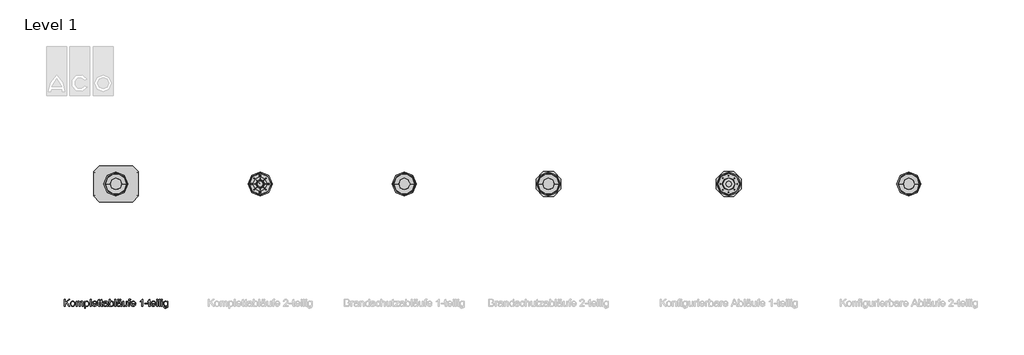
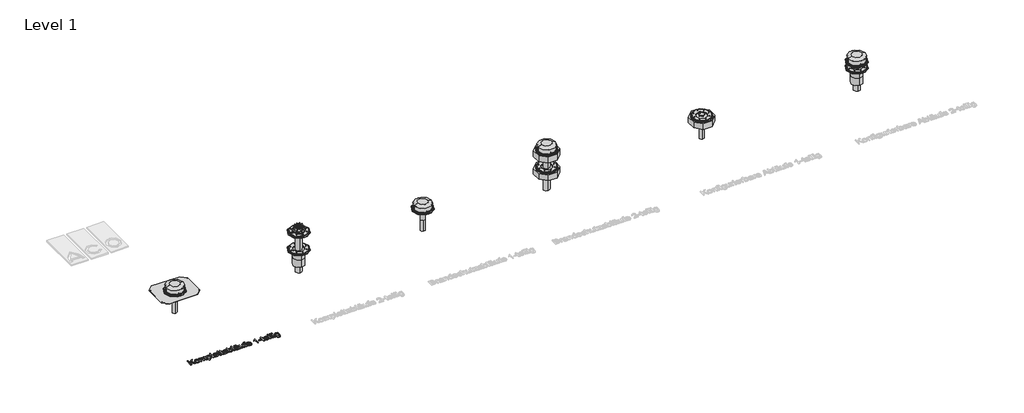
# One storey, part 1 of 4: 39 sanitary terminals, 1 proxy, 1 unitary equipment element.
"""IFC4 building model written with IfcOpenShell, lengths in millimetres."""

from ifc_helpers import new_model, si_unit, origin, origin_with_axes, place, context, project, spatial, polyline, outline, extrude, transform, mapped, element, save
from components import dn100_cellular_glass_insulation_01523197, dn70_uninsulated_26a85f5e, dn70_e7ab0a21, pf_gen_spin_complete_gully_double_body_aco_dn70_uninsulated_9e07d89d, std_nested_c40f8a32, std_nested_96657f73, std_nested_b7057b15, std_nested_38cea44b, std_nested_563bcbb4, std_nested_f304a034, std_nested_937152f7, std_nested_26a2ab0b, std_nested_b6c5579d, std_nested_9b388c5e, std_nested_0cbd71f9, std_nested_315dc5ef, std_nested_48636e09, std_nested_016ffaeb, std_nested_41c56b70

model = new_model("IFC4")

# Units and contexts
model_context = context("Model", 3, world=origin())
ifc_project = project(units=[si_unit("LENGTHUNIT", "METRE", prefix="MILLI")], contexts=[model_context])

# Site, building, storey
site = spatial("IfcSite", under=ifc_project)
building = spatial("IfcBuilding", under=site)
storey = spatial("IfcBuildingStorey", under=building, Name="Level 1", Elevation=0.0)

# Proxy
placement = place(None, origin())
element("IfcBuildingElementProxy", 1, Name="100mm ACO", ObjectType="100mm ACO", at=placement, inside=storey, context=model_context, shape_type="SweptSolid", body=[
    extrude(outline(polyline([(862.5, -700.0), (846.9618056, -700.0), (810.0405093, -648.8136574), (793.5185185, -664.8148148), (793.5185185, -700.0), (780.5555556, -700.0), (780.5555556, -600.0), (793.5185185, -600.0), (793.5185185, -647.8009259), (842.8819444, -600.0), (860.474537, -600.0), (819.212963, -639.9305556), (862.5, -700.0)])), origin_with_axes(), (0.0, 0.0, 1.0), 10.0),
    extrude(outline(polyline([(900.8969907, -625.9259259), (914.0733507, -628.3203125), (924.7829861, -635.5034722), (931.890191, -647.0992477), (934.2592593, -662.7314815), (931.6948785, -681.0040509), (924.0017361, -692.9976852), (913.0967882, -699.6383102), (900.8969907, -701.8518519), (888.3065683, -699.5768229), (877.5028935, -692.7517361), (870.0701678, -680.9859664), (867.5925926, -663.8888889), (869.9869792, -647.1715856), (877.1701389, -635.3298611), (887.890625, -628.2769097), (900.8969907, -625.9259259)]), holes=[polyline([(900.8969907, -692.5925926), (909.7041377, -690.5852141), (916.1024306, -684.5630787), (921.2962963, -663.4259259), (919.8278356, -651.1429398), (915.4224537, -642.3032407), (908.8541667, -636.9646991), (900.8969907, -635.1851852), (892.7842882, -636.9900174), (886.2702546, -642.4045139), (881.9842303, -651.3925058), (880.5555556, -663.9178241), (882.0095486, -676.3997396), (886.3715278, -685.3732639), (892.9108796, -690.7877604), (900.8969907, -692.5925926)])]), origin_with_axes(), (0.0, 0.0, 1.0), 10.0),
    extrude(outline(polyline([(1045.3703704, -700.0), (1032.4074074, -700.0), (1032.4074074, -653.2986111), (1031.7563657, -644.4878472), (1028.3709491, -638.0063657), (1019.849537, -635.1851852), (1007.8414352, -640.3356481), (1004.0436921, -647.0920139), (1002.7777778, -657.0601852), (1002.7777778, -700.0), (989.8148148, -700.0), (989.8148148, -651.9097222), (986.6319444, -638.744213), (977.6041667, -635.1851852), (965.0752315, -640.7552083), (961.4076968, -648.7521701), (960.1851852, -661.6030093), (960.1851852, -700.0), (947.2222222, -700.0), (947.2222222, -627.7777778), (958.3333333, -627.7777778), (958.3333333, -637.6736111), (967.7155671, -628.8628472), (980.2662037, -625.9259259), (993.4461806, -629.0943287), (1000.9259259, -638.6284722), (1010.4456019, -629.1015625), (1023.0324074, -625.9259259), (1032.8052662, -627.4450231), (1039.7858796, -632.0023148), (1043.9742477, -639.5978009), (1045.3703704, -650.2314815), (1045.3703704, -700.0)])), origin_with_axes(), (0.0, 0.0, 1.0), 10.0),
    extrude(outline(polyline([(1076.9820602, -636.4872685), (1085.4383681, -628.5662616), (1097.1064815, -625.9259259), (1109.4328704, -628.515625), (1118.8657407, -636.2847222), (1124.8553241, -648.2132523), (1126.8518519, -663.28125), (1124.5949074, -679.1702836), (1117.8240741, -691.4207176), (1107.7690972, -699.2440683), (1095.6597222, -701.8518519), (1085.2864583, -699.7251157), (1077.1990741, -693.3449074), (1076.8518519, -727.7777778), (1063.8888889, -727.7777778), (1063.8888889, -627.7777778), (1076.8518519, -627.7777778), (1076.9820602, -636.4872685)]), holes=[polyline([(1094.2418981, -692.5925926), (1102.0146123, -690.766059), (1108.3188657, -685.2864583), (1112.4963831, -676.1899595), (1113.8888889, -663.5127315), (1112.5470197, -651.4359086), (1108.521412, -642.5202546), (1102.4052373, -637.0189525), (1094.7916667, -635.1851852), (1086.9104456, -637.2287326), (1080.5700231, -643.359375), (1076.3925058, -652.7452257), (1075.0, -664.5543981), (1076.3346354, -676.66739), (1080.3385417, -685.4600694), (1086.4836516, -690.8094618), (1094.2418981, -692.5925926)])]), origin_with_axes(), (0.0, 0.0, 1.0), 10.0),
    extrude(outline(polyline([(1154.6296296, -700.0), (1141.6666667, -700.0), (1141.6666667, -600.0), (1154.6296296, -600.0), (1154.6296296, -700.0)])), origin_with_axes(), (0.0, 0.0, 1.0), 10.0),
    extrude(outline(polyline([(1236.1111111, -666.6666667), (1182.4074074, -666.6666667), (1184.47989, -677.7922454), (1189.1927083, -685.9375), (1195.9743924, -690.9288194), (1204.2534722, -692.5925926), (1215.9288194, -688.9033565), (1223.1481481, -677.7777778), (1236.1111111, -679.2824074), (1231.7346644, -688.9033565), (1224.7974537, -696.0069444), (1215.552662, -700.390625), (1204.2534722, -701.8518519), (1189.666522, -699.3453414), (1178.6603009, -691.8258102), (1171.7484086, -679.9660012), (1169.4444444, -664.4386574), (1171.6652199, -648.900463), (1178.3275463, -636.6030093), (1189.026331, -628.5951968), (1203.3564815, -625.9259259), (1218.5763889, -629.3836806), (1231.0040509, -641.1603009), (1234.8343461, -651.6963252), (1236.1111111, -666.6666667)]), holes=[polyline([(1223.1481481, -657.4074074), (1221.0648148, -647.2511574), (1216.3194444, -640.3935185), (1203.0381944, -635.1851852), (1195.1822917, -636.7332176), (1188.8599537, -641.3773148), (1182.4074074, -657.4074074), (1223.1481481, -657.4074074)])]), origin_with_axes(), (0.0, 0.0, 1.0), 10.0),
    extrude(outline(polyline([(1278.7037037, -701.0127315), (1269.6180556, -701.8518519), (1258.0295139, -698.9728009), (1253.587963, -691.6666667), (1252.7777778, -679.3402778), (1252.7777778, -637.037037), (1243.5185185, -637.037037), (1243.5185185, -627.7777778), (1252.7777778, -627.7777778), (1252.7777778, -609.4328704), (1265.7407407, -601.8518519), (1265.7407407, -627.7777778), (1276.8518519, -627.7777778), (1276.8518519, -637.037037), (1265.7407407, -637.037037), (1265.7407407, -681.9444444), (1266.7824074, -690.162037), (1272.0775463, -692.5925926), (1277.1122685, -692.5925926), (1278.7037037, -701.0127315)])), origin_with_axes(), (0.0, 0.0, 1.0), 10.0),
    extrude(outline(polyline([(1317.5925926, -701.0127315), (1308.5069444, -701.8518519), (1296.9184028, -698.9728009), (1292.4768519, -691.6666667), (1291.6666667, -679.3402778), (1291.6666667, -637.037037), (1282.4074074, -637.037037), (1282.4074074, -627.7777778), (1291.6666667, -627.7777778), (1291.6666667, -609.4328704), (1304.6296296, -601.8518519), (1304.6296296, -627.7777778), (1315.7407407, -627.7777778), (1315.7407407, -637.037037), (1304.6296296, -637.037037), (1304.6296296, -681.9444444), (1305.6712963, -690.162037), (1310.9664352, -692.5925926), (1316.0011574, -692.5925926), (1317.5925926, -701.0127315)])), origin_with_axes(), (0.0, 0.0, 1.0), 10.0),
    extrude(outline(polyline([(1391.6666667, -700.0), (1378.7037037, -700.0), (1375.0, -691.2615741), (1362.5072338, -699.2042824), (1349.0451389, -701.8518519), (1339.0588831, -700.4050926), (1331.4380787, -696.0648148), (1326.6095197, -689.3518519), (1325.0, -680.787037), (1326.5769676, -672.479022), (1331.3078704, -665.7841435), (1339.9377894, -660.8904803), (1353.2118056, -657.9861111), (1364.5543981, -656.25), (1375.0, -653.7037037), (1374.6672454, -645.6741898), (1372.728588, -640.7986111), (1367.5636574, -636.7332176), (1357.9861111, -635.1851852), (1345.9056713, -638.3246528), (1339.8148148, -650.0), (1326.8518519, -648.4085648), (1330.4072627, -638.599537), (1337.0804398, -631.568287), (1346.8641493, -627.3365162), (1359.7511574, -625.9259259), (1379.0075231, -629.7887731), (1386.5596065, -639.1059028), (1387.962963, -653.1539352), (1387.962963, -669.6759259), (1388.5127315, -689.9305556), (1391.6666667, -700.0)]), holes=[polyline([(1375.0, -667.5925926), (1375.0, -662.962963), (1351.7216435, -668.287037), (1341.4026331, -672.3451968), (1337.962963, -680.5844907), (1341.6666667, -689.2071759), (1352.34375, -692.5925926), (1368.1568287, -686.9212963), (1373.2892072, -679.2534722), (1375.0, -667.5925926)])]), origin_with_axes(), (0.0, 0.0, 1.0), 10.0),
    extrude(outline(polyline([(1419.6180556, -634.9247685), (1427.9803241, -628.1756366), (1439.0625, -625.9259259), (1451.4865451, -628.4722222), (1461.1545139, -636.1111111), (1467.3719618, -647.8587963), (1469.4444444, -662.7314815), (1467.1657986, -679.4668692), (1460.3298611, -691.7679398), (1450.4412616, -699.3308738), (1439.0046296, -701.8518519), (1427.9875579, -699.3778935), (1419.7048611, -691.9560185), (1419.4444444, -700.0), (1406.4814815, -700.0), (1406.4814815, -600.0), (1419.4444444, -600.0), (1419.6180556, -634.9247685)]), holes=[polyline([(1437.7893519, -692.5925926), (1445.20761, -690.7009549), (1451.2008102, -685.0260417), (1455.1613137, -675.9295428), (1456.4814815, -663.7731481), (1451.6203704, -642.896412), (1445.8333333, -637.1129919), (1438.1944444, -635.1851852), (1430.5700231, -637.1744792), (1424.5949074, -643.1423611), (1419.4444444, -663.28125), (1421.5856481, -680.2372685), (1428.0381944, -688.9322917), (1437.7893519, -692.5925926)])]), origin_with_axes(), (0.0, 0.0, 1.0), 10.0),
    extrude(outline(polyline([(1497.2222222, -700.0), (1484.2592593, -700.0), (1484.2592593, -600.0), (1497.2222222, -600.0), (1497.2222222, -700.0)])), origin_with_axes(), (0.0, 0.0, 1.0), 10.0),
    extrude(outline(polyline([(1578.7037037, -700.0), (1565.7407407, -700.0), (1562.037037, -691.2615741), (1549.5442708, -699.2042824), (1536.0821759, -701.8518519), (1526.0959201, -700.4050926), (1518.4751157, -696.0648148), (1513.6465567, -689.3518519), (1512.037037, -680.787037), (1513.6140046, -672.479022), (1518.3449074, -665.7841435), (1526.9748264, -660.8904803), (1540.2488426, -657.9861111), (1551.5914352, -656.25), (1562.037037, -653.7037037), (1561.7042824, -645.6741898), (1559.765625, -640.7986111), (1554.6006944, -636.7332176), (1545.0231481, -635.1851852), (1532.9427083, -638.3246528), (1526.8518519, -650.0), (1513.8888889, -648.4085648), (1517.4442998, -638.599537), (1524.1174769, -631.568287), (1533.9011863, -627.3365162), (1546.7881944, -625.9259259), (1566.0445602, -629.7887731), (1573.5966435, -639.1059028), (1575.0, -653.1539352), (1575.0, -669.6759259), (1575.5497685, -689.9305556), (1578.7037037, -700.0)]), holes=[polyline([(1562.037037, -667.5925926), (1562.037037, -662.962963), (1538.7586806, -668.287037), (1528.4396701, -672.3451968), (1525.0, -680.5844907), (1528.7037037, -689.2071759), (1539.380787, -692.5925926), (1555.1938657, -686.9212963), (1560.3262442, -679.2534722), (1562.037037, -667.5925926)])]), origin_with_axes(), (0.0, 0.0, 1.0), 10.0),
    extrude(outline(polyline([(1539.8148148, -614.8148148), (1526.8518519, -614.8148148), (1526.8518519, -600.0), (1539.8148148, -600.0), (1539.8148148, -614.8148148)])), origin_with_axes(), (0.0, 0.0, 1.0), 10.0),
    extrude(outline(polyline([(1565.7407407, -614.8148148), (1552.7777778, -614.8148148), (1552.7777778, -600.0), (1565.7407407, -600.0), (1565.7407407, -614.8148148)])), origin_with_axes(), (0.0, 0.0, 1.0), 10.0),
    extrude(outline(polyline([(1652.7777778, -700.0), (1641.6666667, -700.0), (1641.6666667, -689.4965278), (1631.4236111, -698.7630208), (1618.4606481, -701.8518519), (1604.3402778, -698.3362269), (1595.6886574, -688.6574074), (1593.5185185, -672.65625), (1593.5185185, -627.7777778), (1606.4814815, -627.7777778), (1606.4814815, -668.75), (1607.3784722, -682.8414352), (1612.0659722, -689.84375), (1621.09375, -692.5925926), (1633.8396991, -687.6736111), (1638.3210359, -680.1215278), (1639.8148148, -667.3032407), (1639.8148148, -627.7777778), (1652.7777778, -627.7777778), (1652.7777778, -700.0)])), origin_with_axes(), (0.0, 0.0, 1.0), 10.0),
    extrude(outline(polyline([(1704.6296296, -599.1030093), (1703.0381944, -607.4074074), (1696.7303241, -607.4074074), (1690.4224537, -609.5341435), (1687.962963, -620.0520833), (1687.962963, -627.7777778), (1699.0740741, -627.7777778), (1699.0740741, -637.037037), (1687.962963, -637.037037), (1687.962963, -700.0), (1675.0, -700.0), (1675.0, -637.037037), (1663.8888889, -637.037037), (1663.8888889, -627.7777778), (1675.0, -627.7777778), (1675.0, -619.849537), (1675.9693287, -609.8668981), (1681.0763889, -601.7650463), (1693.8368056, -598.1481481), (1704.6296296, -599.1030093)])), origin_with_axes(), (0.0, 0.0, 1.0), 10.0),
    extrude(outline(polyline([(1773.1481481, -666.6666667), (1719.4444444, -666.6666667), (1721.5169271, -677.7922454), (1726.2297454, -685.9375), (1733.0114294, -690.9288194), (1741.2905093, -692.5925926), (1752.9658565, -688.9033565), (1760.1851852, -677.7777778), (1773.1481481, -679.2824074), (1768.7717014, -688.9033565), (1761.8344907, -696.0069444), (1752.5896991, -700.390625), (1741.2905093, -701.8518519), (1726.703559, -699.3453414), (1715.697338, -691.8258102), (1708.7854456, -679.9660012), (1706.4814815, -664.4386574), (1708.7022569, -648.900463), (1715.3645833, -636.6030093), (1726.0633681, -628.5951968), (1740.3935185, -625.9259259), (1755.6134259, -629.3836806), (1768.041088, -641.1603009), (1771.8713831, -651.6963252), (1773.1481481, -666.6666667)]), holes=[polyline([(1760.1851852, -657.4074074), (1758.1018519, -647.2511574), (1753.3564815, -640.3935185), (1740.0752315, -635.1851852), (1732.2193287, -636.7332176), (1725.8969907, -641.3773148), (1719.4444444, -657.4074074), (1760.1851852, -657.4074074)])]), origin_with_axes(), (0.0, 0.0, 1.0), 10.0),
    extrude(outline(polyline([(1871.2962963, -700.0), (1858.3333333, -700.0), (1858.3333333, -622.2222222), (1834.2592593, -637.037037), (1834.2592593, -627.7777778), (1852.5318287, -616.0590278), (1863.8888889, -601.8518519), (1871.2962963, -601.8518519), (1871.2962963, -700.0)])), origin_with_axes(), (0.0, 0.0, 1.0), 10.0),
    extrude(outline(polyline([(1937.962963, -666.6666667), (1899.0740741, -666.6666667), (1899.0740741, -657.4074074), (1937.962963, -657.4074074), (1937.962963, -666.6666667)])), origin_with_axes(), (0.0, 0.0, 1.0), 10.0),
    extrude(outline(polyline([(1978.7037037, -701.0127315), (1969.6180556, -701.8518519), (1958.0295139, -698.9728009), (1953.587963, -691.6666667), (1952.7777778, -679.3402778), (1952.7777778, -637.037037), (1943.5185185, -637.037037), (1943.5185185, -627.7777778), (1952.7777778, -627.7777778), (1952.7777778, -609.4328704), (1965.7407407, -601.8518519), (1965.7407407, -627.7777778), (1976.8518519, -627.7777778), (1976.8518519, -637.037037), (1965.7407407, -637.037037), (1965.7407407, -681.9444444), (1966.7824074, -690.162037), (1972.0775463, -692.5925926), (1977.1122685, -692.5925926), (1978.7037037, -701.0127315)])), origin_with_axes(), (0.0, 0.0, 1.0), 10.0),
    extrude(outline(polyline([(2052.7777778, -666.6666667), (1999.0740741, -666.6666667), (2001.1465567, -677.7922454), (2005.859375, -685.9375), (2012.641059, -690.9288194), (2020.9201389, -692.5925926), (2032.5954861, -688.9033565), (2039.8148148, -677.7777778), (2052.7777778, -679.2824074), (2048.401331, -688.9033565), (2041.4641204, -696.0069444), (2032.2193287, -700.390625), (2020.9201389, -701.8518519), (2006.3331887, -699.3453414), (1995.3269676, -691.8258102), (1988.4150752, -679.9660012), (1986.1111111, -664.4386574), (1988.3318866, -648.900463), (1994.994213, -636.6030093), (2005.6929977, -628.5951968), (2020.0231481, -625.9259259), (2035.2430556, -629.3836806), (2047.6707176, -641.1603009), (2051.5010127, -651.6963252), (2052.7777778, -666.6666667)]), holes=[polyline([(2039.8148148, -657.4074074), (2037.7314815, -647.2511574), (2032.9861111, -640.3935185), (2019.7048611, -635.1851852), (2011.8489583, -636.7332176), (2005.5266204, -641.3773148), (1999.0740741, -657.4074074), (2039.8148148, -657.4074074)])]), origin_with_axes(), (0.0, 0.0, 1.0), 10.0),
    extrude(outline(polyline([(2080.5555556, -612.962963), (2067.5925926, -612.962963), (2067.5925926, -600.0), (2080.5555556, -600.0), (2080.5555556, -612.962963)])), origin_with_axes(), (0.0, 0.0, 1.0), 10.0),
    extrude(outline(polyline([(2080.5555556, -700.0), (2067.5925926, -700.0), (2067.5925926, -627.7777778), (2080.5555556, -627.7777778), (2080.5555556, -700.0)])), origin_with_axes(), (0.0, 0.0, 1.0), 10.0),
    extrude(outline(polyline([(2112.037037, -700.0), (2099.0740741, -700.0), (2099.0740741, -600.0), (2112.037037, -600.0), (2112.037037, -700.0)])), origin_with_axes(), (0.0, 0.0, 1.0), 10.0),
    extrude(outline(polyline([(2143.5185185, -612.962963), (2130.5555556, -612.962963), (2130.5555556, -600.0), (2143.5185185, -600.0), (2143.5185185, -612.962963)])), origin_with_axes(), (0.0, 0.0, 1.0), 10.0),
    extrude(outline(polyline([(2143.5185185, -700.0), (2130.5555556, -700.0), (2130.5555556, -627.7777778), (2143.5185185, -627.7777778), (2143.5185185, -700.0)])), origin_with_axes(), (0.0, 0.0, 1.0), 10.0),
    extrude(outline(polyline([(2221.2962963, -689.3518519), (2218.2436343, -711.9936343), (2207.3784722, -723.6255787), (2188.7152778, -727.7777778), (2177.4992766, -726.3708044), (2168.3304398, -722.1498843), (2162.2214988, -714.7243924), (2160.1851852, -703.7037037), (2173.1481481, -705.7581019), (2177.7199074, -715.3211806), (2188.9178241, -718.5185185), (2202.2280093, -714.8292824), (2207.3929398, -705.8449074), (2208.3333333, -691.2326389), (2199.5587384, -697.8081597), (2188.744213, -700.0), (2176.3527199, -697.3885995), (2166.6666667, -689.5543981), (2160.4166667, -677.7416088), (2158.3333333, -663.1944444), (2160.3153935, -648.5532407), (2166.2615741, -636.5740741), (2175.708912, -628.587963), (2188.1944444, -625.9259259), (2199.2693866, -628.3058449), (2208.0729167, -635.4456019), (2208.3333333, -627.7777778), (2221.2962963, -627.7777778), (2221.2962963, -689.3518519)]), holes=[polyline([(2190.6828704, -690.7407407), (2197.8949653, -689.134838), (2204.2534722, -684.3171296), (2208.7022569, -675.7233796), (2210.1851852, -662.7893519), (2208.770978, -651.0018808), (2204.5283565, -642.3177083), (2198.2024016, -636.968316), (2190.5381944, -635.1851852), (2182.8161169, -637.0117187), (2176.6637731, -642.4913194), (2172.6381655, -651.1465567), (2171.2962963, -662.5), (2172.7032697, -675.2170139), (2176.9241898, -683.9699074), (2183.1778067, -689.0480324), (2190.6828704, -690.7407407)])]), origin_with_axes(), (0.0, 0.0, 1.0), 10.0),
])

# Sanitary terminals
dn100_cellular_glass_insulation_shape = dn100_cellular_glass_insulation_01523197(model_context)
element("IfcSanitaryTerminal", 2, ObjectType="PF_GEN_spin complete gully fire protection double body_ACO : DN100 cellular glass insulation", at=placement, inside=storey, context=model_context, shape_type="MappedRepresentation", body=[
    mapped(dn100_cellular_glass_insulation_shape, transform((7500.0, 1000.0, 0.0), x_axis=(1.0, 0.0, 0.0), y_axis=(0.0, 1.0, 0.0), z_axis=(0.0, 0.0, 1.0))),
])
dn70_uninsulated_shape = dn70_uninsulated_26a85f5e(model_context)
element("IfcSanitaryTerminal", 3, ObjectType="PF_GEN_spin configurable gully single body_ACO : DN70", at=placement, inside=storey, context=model_context, shape_type="MappedRepresentation", body=[
    mapped(dn70_uninsulated_shape, transform((10000.0, 1000.0, 0.0), x_axis=(1.0, 0.0, 0.0), y_axis=(0.0, 1.0, 0.0), z_axis=(0.0, 0.0, 1.0))),
])
dn70_shape = dn70_e7ab0a21(model_context)
element("IfcSanitaryTerminal", 4, ObjectType="PF_GEN_spin configurable gully double body_ACO : DN70", at=placement, inside=storey, context=model_context, shape_type="MappedRepresentation", body=[
    mapped(dn70_shape, transform((12500.0, 1000.0, -47.4284548), x_axis=(1.0, 0.0, 0.0), y_axis=(0.0, 1.0, 0.0), z_axis=(0.0, 0.0, 1.0))),
])
element("IfcSanitaryTerminal", 5, ObjectType="PF_GEN_spin complete gully fire protection single body_ACO : DN70 uninsulated", at=placement, inside=storey, context=model_context, shape_type="MappedRepresentation", body=[
    mapped(dn70_uninsulated_shape, transform((5500.0, 1000.0, 0.0), x_axis=(1.0, 0.0, 0.0), y_axis=(0.0, 1.0, 0.0), z_axis=(0.0, 0.0, 1.0))),
])
pf_gen_spin_complete_gully_double_body_aco_dn70_uninsulated_shape = pf_gen_spin_complete_gully_double_body_aco_dn70_uninsulated_9e07d89d(model_context)
element("IfcSanitaryTerminal", 6, ObjectType="PF_GEN_spin complete gully double body_ACO : DN70 uninsulated", at=placement, inside=storey, context=model_context, shape_type="MappedRepresentation", body=[
    mapped(pf_gen_spin_complete_gully_double_body_aco_dn70_uninsulated_shape, transform((3500.0, 1000.0, 0.0), x_axis=(1.0, 0.0, 0.0), y_axis=(0.0, 1.0, 0.0), z_axis=(0.0, 0.0, 1.0))),
])
element("IfcSanitaryTerminal", 7, ObjectType="PF_GEN_spin complete gully single body_ACO : DN70 uninsulated", at=placement, inside=storey, context=model_context, shape_type="MappedRepresentation", body=[
    mapped(dn70_uninsulated_shape, transform((1500.0, 1000.0, 0.0), x_axis=(1.0, 0.0, 0.0), y_axis=(0.0, 1.0, 0.0), z_axis=(0.0, 0.0, 1.0))),
])
std_nested_shape = std_nested_c40f8a32(model_context)
element("IfcSanitaryTerminal", 8, ObjectType="ZZZ_do not use_PF_PP_gravel trap_ACO : std (nested)", at=placement, inside=storey, context=model_context, shape_type="MappedRepresentation", body=[
    mapped(std_nested_shape, transform((3500.0, 1000.0, 313.0), x_axis=(-1.0, 0.0, 0.0), y_axis=(0.0, -1.0, 0.0), z_axis=(0.0, 0.0, 1.0))),
])
std_nested_2_shape = std_nested_96657f73(model_context)
element("IfcSanitaryTerminal", 9, ObjectType="ZZZ_do not use_PF_ST_gravel trap cover_ACO : std (nested)", at=placement, inside=storey, context=model_context, shape_type="MappedRepresentation", body=[
    mapped(std_nested_2_shape, transform((1500.0, 1000.0, 10.5), x_axis=(-1.0, 0.0, 0.0), y_axis=(0.0, -1.0, 0.0), z_axis=(0.0, 0.0, 1.0))),
])
element("IfcSanitaryTerminal", 10, ObjectType="ZZZ_do not use_PF_ST_gravel trap cover_ACO : std (nested)", at=placement, inside=storey, context=model_context, shape_type="MappedRepresentation", body=[
    mapped(std_nested_2_shape, transform((5500.0, 1000.0, 10.5), x_axis=(-1.0, 0.0, 0.0), y_axis=(0.0, -1.0, 0.0), z_axis=(0.0, 0.0, 1.0))),
])
element("IfcSanitaryTerminal", 11, ObjectType="ZZZ_do not use_PF_ST_gravel trap cover_ACO : std (nested)", at=placement, inside=storey, context=model_context, shape_type="MappedRepresentation", body=[
    mapped(std_nested_2_shape, transform((7500.0, 1000.0, 310.5), x_axis=(-1.0, 0.0, 0.0), y_axis=(0.0, -1.0, 0.0), z_axis=(0.0, 0.0, 1.0))),
])
std_nested_3_shape = std_nested_b7057b15(model_context)
element("IfcSanitaryTerminal", 12, ObjectType="ZZZ_do not use_PF_ST_holder sheet for trapezoidal panel roof_ACO : std (nested)", at=placement, inside=storey, context=model_context, shape_type="MappedRepresentation", body=[
    mapped(std_nested_3_shape, transform((1500.0, 1000.0, -6.0), x_axis=(1.0, 0.0, 0.0), y_axis=(0.0, -1.0, 0.0), z_axis=(0.0, 0.0, -1.0))),
])
std_nested_4_shape = std_nested_38cea44b(model_context)
element("IfcSanitaryTerminal", 13, ObjectType="ZZZ_do not use_PF_ST_fire protection inset_ACO : std (nested)", at=placement, inside=storey, context=model_context, shape_type="MappedRepresentation", body=[
    mapped(std_nested_4_shape, transform((7500.0, 1000.0, 300.0), x_axis=(1.0, 0.0, 0.0), y_axis=(0.0, 1.0, 0.0), z_axis=(0.0, 0.0, 1.0))),
])
std_nested_5_shape = std_nested_563bcbb4(model_context)
element("IfcSanitaryTerminal", 14, ObjectType="ZZZ_do not use_PF_ST_bottom part for 2-piece_ACO : std (nested)", at=placement, inside=storey, context=model_context, shape_type="MappedRepresentation", body=[
    mapped(std_nested_5_shape, transform((3500.0, 1000.0, 300.0), x_axis=(1.0, 0.0, 0.0), y_axis=(0.0, 1.0, 0.0), z_axis=(0.0, 0.0, 1.0))),
])
element("IfcSanitaryTerminal", 15, ObjectType="ZZZ_do not use_PF_ST_bottom part for 2-piece_ACO : std (nested)", at=placement, inside=storey, context=model_context, shape_type="MappedRepresentation", body=[
    mapped(std_nested_5_shape, transform((7500.0, 1000.0, 300.0), x_axis=(1.0, 0.0, 0.0), y_axis=(0.0, 1.0, 0.0), z_axis=(0.0, 0.0, 1.0))),
])
std_nested_6_shape = std_nested_f304a034(model_context)
element("IfcSanitaryTerminal", 16, ObjectType="ZZZ_do not use_PF_ST_bottom part for 2-piece_ACO : std (nested)", at=placement, inside=storey, context=model_context, shape_type="MappedRepresentation", body=[
    mapped(std_nested_6_shape, transform((12500.0, 1000.0, 59.8345654), x_axis=(1.0, 0.0, 0.0), y_axis=(0.0, 1.0, 0.0), z_axis=(0.0, 0.0, 1.0))),
])
std_nested_7_shape = std_nested_937152f7(model_context)
element("IfcSanitaryTerminal", 17, ObjectType="ZZZ_do not use_PF_ST_fire protection inset_ACO : std (nested)", at=placement, inside=storey, context=model_context, shape_type="MappedRepresentation", body=[
    mapped(std_nested_7_shape, transform((5500.0, 1000.0, 0.0), x_axis=(0.0, 1.0, 0.0), y_axis=(-1.0, 0.0, 0.0), z_axis=(0.0, 0.0, 1.0))),
])
element("IfcSanitaryTerminal", 18, ObjectType="ZZZ_do not use_PF_ST_fire protection inset_ACO : std (nested)", at=placement, inside=storey, context=model_context, shape_type="MappedRepresentation", body=[
    mapped(std_nested_4_shape, transform((12500.0, 1000.0, 59.8345654), x_axis=(0.0, 1.0, 0.0), y_axis=(-1.0, 0.0, 0.0), z_axis=(0.0, 0.0, 1.0))),
])
element("IfcSanitaryTerminal", 19, ObjectType="ZZZ_do not use_PF_ST_fire protection inset_ACO : std (nested)", at=placement, inside=storey, context=model_context, shape_type="MappedRepresentation", body=[
    mapped(std_nested_7_shape, transform((10000.0, 1000.0, 0.0), x_axis=(0.0, 1.0, 0.0), y_axis=(-1.0, 0.0, 0.0), z_axis=(0.0, 0.0, 1.0))),
])
element("IfcSanitaryTerminal", 20, ObjectType="ZZZ_do not use_PF_ST_gravel trap cover_ACO : std (nested)", at=placement, inside=storey, context=model_context, shape_type="MappedRepresentation", body=[
    mapped(std_nested_2_shape, transform((12500.0, 1000.0, 71.8345654), x_axis=(-1.0, 0.0, 0.0), y_axis=(0.0, -1.0, 0.0), z_axis=(0.0, 0.0, 1.0))),
])
std_nested_8_shape = std_nested_26a2ab0b(model_context)
element("IfcSanitaryTerminal", 21, ObjectType="ZZZ_do not use_PF_ST_lower section for gully body_ACO : std (nested)", at=placement, inside=storey, context=model_context, shape_type="MappedRepresentation", body=[
    mapped(std_nested_8_shape, transform((3500.0, 1000.0, 0.0), x_axis=(1.0, 0.0, 0.0), y_axis=(0.0, 1.0, 0.0), z_axis=(0.0, 0.0, 1.0))),
])
element("IfcSanitaryTerminal", 22, ObjectType="ZZZ_do not use_PF_ST_lower section for gully body_ACO : std (nested)", at=placement, inside=storey, context=model_context, shape_type="MappedRepresentation", body=[
    mapped(std_nested_8_shape, transform((7500.0, 1000.0, 0.0), x_axis=(1.0, 0.0, 0.0), y_axis=(0.0, 1.0, 0.0), z_axis=(0.0, 0.0, 1.0))),
])
std_nested_9_shape = std_nested_b6c5579d(model_context)
element("IfcSanitaryTerminal", 23, ObjectType="ZZZ_do not use_PF_CG_insulating body_ACO : std (nested)", at=placement, inside=storey, context=model_context, shape_type="MappedRepresentation", body=[
    mapped(std_nested_9_shape, transform((7500.0, 1000.0, -7.5), x_axis=(1.0, 0.0, 0.0), y_axis=(0.0, 1.0, 0.0), z_axis=(0.0, 0.0, 1.0))),
])
element("IfcSanitaryTerminal", 24, ObjectType="ZZZ_do not use_PF_CG_insulating body_ACO : std (nested)", at=placement, inside=storey, context=model_context, shape_type="MappedRepresentation", body=[
    mapped(std_nested_9_shape, transform((7500.0, 1000.0, 294.0), x_axis=(0.0, -1.0, 0.0), y_axis=(1.0, 0.0, 0.0), z_axis=(0.0, 0.0, 1.0))),
])
std_nested_10_shape = std_nested_9b388c5e(model_context)
element("IfcSanitaryTerminal", 25, ObjectType="ZZZ_do not use_PF_CG_insulating body_ACO : std (nested)", at=placement, inside=storey, context=model_context, shape_type="MappedRepresentation", body=[
    mapped(std_nested_10_shape, transform((10000.0, 1000.0, -6.0), x_axis=(-1.0, 0.0, 0.0), y_axis=(0.0, -1.0, 0.0), z_axis=(0.0, 0.0, 1.0))),
])
std_nested_11_shape = std_nested_0cbd71f9(model_context)
element("IfcSanitaryTerminal", 26, ObjectType="ZZZ_do not use_PF_GEN_flange seal_ACO : std (nested)", at=placement, inside=storey, context=model_context, shape_type="MappedRepresentation", body=[
    mapped(std_nested_11_shape, transform((1500.0, 1000.0, 5.0), x_axis=(1.0, 0.0, 0.0), y_axis=(0.0, -1.0, 0.0), z_axis=(0.0, 0.0, -1.0))),
])
element("IfcSanitaryTerminal", 27, ObjectType="ZZZ_do not use_PF_GEN_flange seal_ACO : std (nested)", at=placement, inside=storey, context=model_context, shape_type="MappedRepresentation", body=[
    mapped(std_nested_11_shape, transform((5500.0, 1000.0, 5.0), x_axis=(1.0, 0.0, 0.0), y_axis=(0.0, -1.0, 0.0), z_axis=(0.0, 0.0, -1.0))),
])
element("IfcSanitaryTerminal", 28, ObjectType="ZZZ_do not use_PF_GEN_flange seal_ACO : std (nested)", at=placement, inside=storey, context=model_context, shape_type="MappedRepresentation", body=[
    mapped(std_nested_11_shape, transform((7500.0, 1000.0, 5.0), x_axis=(1.0, 0.0, 0.0), y_axis=(0.0, -1.0, 0.0), z_axis=(0.0, 0.0, -1.0))),
])
element("IfcSanitaryTerminal", 29, ObjectType="ZZZ_do not use_PF_GEN_flange seal_ACO : std (nested)", at=placement, inside=storey, context=model_context, shape_type="MappedRepresentation", body=[
    mapped(std_nested_11_shape, transform((7500.0, 1000.0, 305.0), x_axis=(1.0, 0.0, 0.0), y_axis=(0.0, -1.0, 0.0), z_axis=(0.0, 0.0, -1.0))),
])
element("IfcSanitaryTerminal", 30, ObjectType="ZZZ_do not use_PF_GEN_flange seal_ACO : std (nested)", at=placement, inside=storey, context=model_context, shape_type="MappedRepresentation", body=[
    mapped(std_nested_11_shape, transform((10000.0, 1000.0, 5.0), x_axis=(1.0, 0.0, 0.0), y_axis=(0.0, -1.0, 0.0), z_axis=(0.0, 0.0, -1.0))),
])
element("IfcSanitaryTerminal", 31, ObjectType="ZZZ_do not use_PF_GEN_flange seal_ACO : std (nested)", at=placement, inside=storey, context=model_context, shape_type="MappedRepresentation", body=[
    mapped(std_nested_11_shape, transform((12500.0, 1000.0, -42.4284548), x_axis=(1.0, 0.0, 0.0), y_axis=(0.0, -1.0, 0.0), z_axis=(0.0, 0.0, -1.0))),
])
element("IfcSanitaryTerminal", 32, ObjectType="ZZZ_do not use_PF_GEN_flange seal_ACO : std (nested)", at=placement, inside=storey, context=model_context, shape_type="MappedRepresentation", body=[
    mapped(std_nested_11_shape, transform((12500.0, 1000.0, 64.8345654), x_axis=(1.0, 0.0, 0.0), y_axis=(0.0, -1.0, 0.0), z_axis=(0.0, 0.0, -1.0))),
])
std_nested_12_shape = std_nested_315dc5ef(model_context)
element("IfcSanitaryTerminal", 33, ObjectType="ZZZ_do not use_PF_GEN_flange seal_ACO : std (nested)", at=placement, inside=storey, context=model_context, shape_type="MappedRepresentation", body=[
    mapped(std_nested_12_shape, transform((3500.0, 1000.0, 6.0), x_axis=(1.0, 0.0, 0.0), y_axis=(0.0, -1.0, 0.0), z_axis=(0.0, 0.0, -1.0))),
])
element("IfcSanitaryTerminal", 34, ObjectType="ZZZ_do not use_PF_GEN_flange seal_ACO : std (nested)", at=placement, inside=storey, context=model_context, shape_type="MappedRepresentation", body=[
    mapped(std_nested_12_shape, transform((3500.0, 1000.0, 306.0), x_axis=(1.0, 0.0, 0.0), y_axis=(0.0, -1.0, 0.0), z_axis=(0.0, 0.0, -1.0))),
])
std_nested_13_shape = std_nested_48636e09(model_context)
element("IfcSanitaryTerminal", 35, ObjectType="ZZZ_do not use_PF_ST_bottom part for 1-piece_ACO : std (nested)", at=placement, inside=storey, context=model_context, shape_type="MappedRepresentation", body=[
    mapped(std_nested_13_shape, transform((1500.0, 1000.0, 0.0), x_axis=(1.0, 0.0, 0.0), y_axis=(0.0, 1.0, 0.0), z_axis=(0.0, 0.0, 1.0))),
])
element("IfcSanitaryTerminal", 36, ObjectType="ZZZ_do not use_PF_ST_bottom part for 1-piece_ACO : std (nested)", at=placement, inside=storey, context=model_context, shape_type="MappedRepresentation", body=[
    mapped(std_nested_13_shape, transform((5500.0, 1000.0, 0.0), x_axis=(1.0, 0.0, 0.0), y_axis=(0.0, 1.0, 0.0), z_axis=(0.0, 0.0, 1.0))),
])
element("IfcSanitaryTerminal", 37, ObjectType="ZZZ_do not use_PF_ST_bottom part for 1-piece_ACO : std (nested)", at=placement, inside=storey, context=model_context, shape_type="MappedRepresentation", body=[
    mapped(std_nested_13_shape, transform((10000.0, 1000.0, 0.0), x_axis=(1.0, 0.0, 0.0), y_axis=(0.0, 1.0, 0.0), z_axis=(0.0, 0.0, 1.0))),
])
std_nested_14_shape = std_nested_016ffaeb(model_context)
element("IfcSanitaryTerminal", 38, ObjectType="ZZZ_do not use_PF_RW_insulation_ACO : std (nested)", at=placement, inside=storey, context=model_context, shape_type="MappedRepresentation", body=[
    mapped(std_nested_14_shape, transform((3500.0, 1000.0, -6.0), x_axis=(1.0, 0.0, 0.0), y_axis=(0.0, 1.0, 0.0), z_axis=(0.0, 0.0, 1.0))),
])
element("IfcSanitaryTerminal", 39, ObjectType="ZZZ_do not use_PF_RW_insulation_ACO : std (nested)", at=placement, inside=storey, context=model_context, shape_type="MappedRepresentation", body=[
    mapped(std_nested_14_shape, transform((12500.0, 1000.0, -53.4284548), x_axis=(1.0, 0.0, 0.0), y_axis=(0.0, 1.0, 0.0), z_axis=(0.0, 0.0, 1.0))),
])
element("IfcSanitaryTerminal", 40, ObjectType="ZZZ_do not use_PF_ST_lower section for gully body_ACO : std (nested)", at=placement, inside=storey, context=model_context, shape_type="MappedRepresentation", body=[
    mapped(std_nested_8_shape, transform((12500.0, 1000.0, -47.4284548), x_axis=(1.0, 0.0, 0.0), y_axis=(0.0, 1.0, 0.0), z_axis=(0.0, 0.0, 1.0))),
])

# Unitary equipment
std_nested_15_shape = std_nested_41c56b70(model_context)
element("IfcUnitaryEquipment", 41, ObjectType="ZZZ_do not use_ME_GEN_flat roof heating_ACO : std (nested)", at=placement, inside=storey, context=model_context, shape_type="MappedRepresentation", body=[
    mapped(std_nested_15_shape, transform((12500.0, 1000.0, -228.4284548), x_axis=(0.0, -1.0, 0.0), y_axis=(-1.0, 0.0, 0.0), z_axis=(0.0, 0.0, -1.0))),
])

save(model, "model.ifc")
